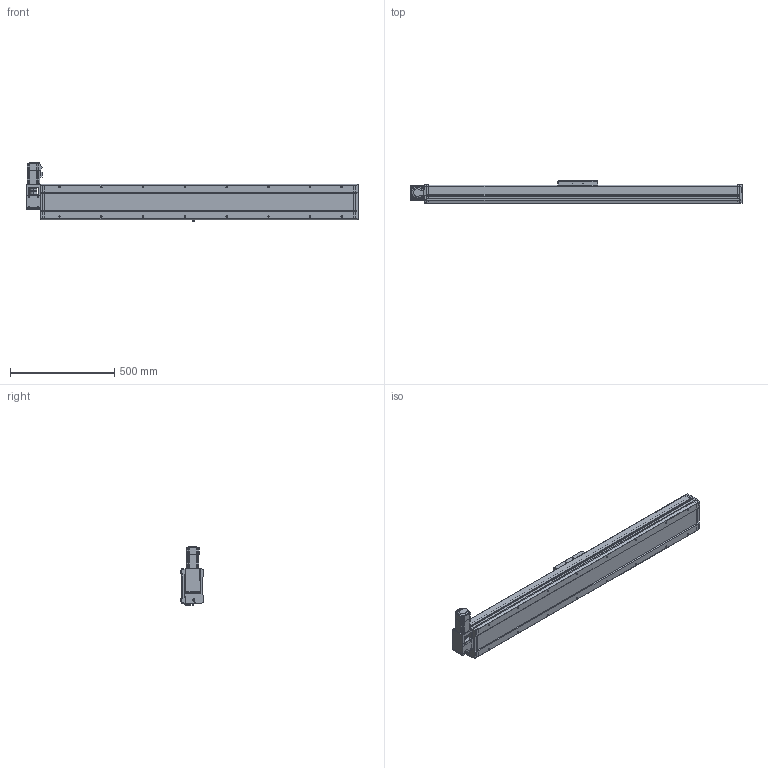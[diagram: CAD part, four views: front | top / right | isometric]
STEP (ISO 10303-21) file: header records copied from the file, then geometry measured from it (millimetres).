
FILE_DESCRIPTION((''),'2;1');
FILE_NAME('170-TZJ3FL-S1200_ASM','2015-12-04T',('lenovo'),(''),'PRO/ENGINEER BY PARAMETRIC TECHNOLOGY CORPORATION, 2010280','PRO/ENGINEER BY PARAMETRIC TECHNOLOGY CORPORATION, 2010280','');
FILE_SCHEMA(('CONFIG_CONTROL_DESIGN'));
Length unit declared in the file: millimetre
Products named in the file (5): 170-TJFL-DZ; 170-HK; 170-HDB-01; 170-TZJ3FL-DJZ; 170-TZJ3FL-S1200_ASM
Assembly tree (4 placements, depth 2):
  170-TZJ3FL-S1200_ASM
    170-TJFL-DZ
    170-HK
    170-HDB-01
    170-TZJ3FL-DJZ
Bounding box: 1589 x 107 x 278.5 mm (x, y, z)
Volume: 11753914.3 mm3; surface area: 1777914.9 mm2
Topology: 6 solids, 30 shells, 1492 faces, 4045 edges, 2697 vertices
Faces by surface type: plane 796, cylinder 555, cone 113, torus 28
Entity records: 47739 total; most frequent: CARTESIAN_POINT 8517, DIRECTION 8388, ORIENTED_EDGE 8090, EDGE_CURVE 4045, AXIS2_PLACEMENT_3D 2884, VERTEX_POINT 2697, VECTOR 2620, LINE 2620
